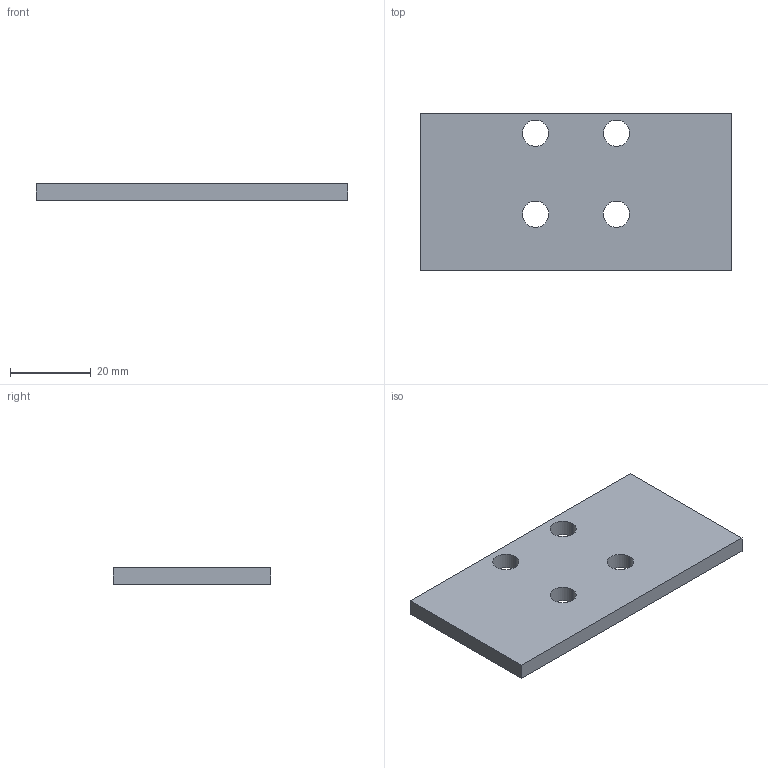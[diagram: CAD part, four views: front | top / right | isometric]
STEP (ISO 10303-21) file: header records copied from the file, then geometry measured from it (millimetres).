
FILE_DESCRIPTION((''),'2;1');
FILE_NAME('FRCK31-022','2018-02-09T09:42:00',('anacleto.m'),(''),'CREO PARAMETRIC BY PTC INC, 2016510','CREO PARAMETRIC BY PTC INC, 2016510','');
FILE_SCHEMA(('CONFIG_CONTROL_DESIGN'));
Length unit declared in the file: millimetre
Products named in the file (1): FRCK31-022
Bounding box: 77 x 39 x 4 mm (x, y, z)
Volume: 11481.1 mm3; surface area: 6995.3 mm2
Topology: 1 solids, 1 shells, 14 faces, 36 edges, 24 vertices
Faces by surface type: cylinder 8, plane 6
Entity records: 490 total; most frequent: DIRECTION 80, CARTESIAN_POINT 74, ORIENTED_EDGE 72, EDGE_CURVE 36, AXIS2_PLACEMENT_3D 30, VERTEX_POINT 24, EDGE_LOOP 22, VECTOR 20
